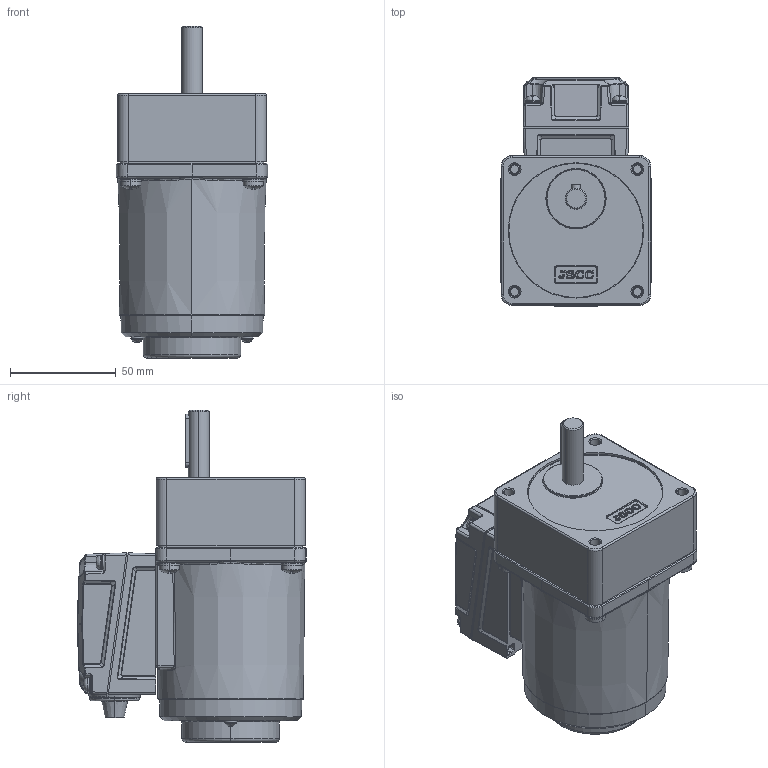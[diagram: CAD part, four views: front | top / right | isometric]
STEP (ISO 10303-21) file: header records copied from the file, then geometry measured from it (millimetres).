
FILE_DESCRIPTION( ('This file contains a STEP AP42 implementation' ,'as created by ZW3D STEP Interface translator.' ,'') ,'2;1' );
FILE_NAME( '15yt01-18.stp' ,'24 712.133017', (''), ('ZWCAD Software Co.'), 'Version 1.0', 'ZW3D to STEP translator', '' );
FILE_SCHEMA(('AUTOMOTIVE_DESIGN { 1 0 10303 214 1 1 1 1 }'));
Length unit declared in the file: millimetre
Products named in the file (10): 0; 15yt01-18; 70YT15G_ASM; 70YT15G; 70YT15G_2; YCX_6-200; 70GK-H-18_ASM; 70GK-H-18_1; 70GK-H-18_2; 3D-JXH-150_300_1
Assembly tree (8 placements, depth 3):
  0
  15yt01-18
    70YT15G_ASM
      70YT15G
      70YT15G_2
      YCX_6-200
    70GK-H-18_ASM
      70GK-H-18_1
      70GK-H-18_2
    3D-JXH-150_300_1
Bounding box: 71.68 x 108.19 x 157 mm (x, y, z)
Volume: 264914.2 mm3; surface area: 118797.1 mm2
Topology: 6 solids, 18 shells, 2904 faces, 7318 edges, 4567 vertices
Faces by surface type: plane 1410, cylinder 632, bspline 632, cone 110, torus 106, sphere 14
Entity records: 133136 total; most frequent: CARTESIAN_POINT 66377, ORIENTED_EDGE 14600, DIRECTION 11188, EDGE_CURVE 7300, VERTEX_POINT 4567, VECTOR 3798, LINE 3798, AXIS2_PLACEMENT_3D 3695
